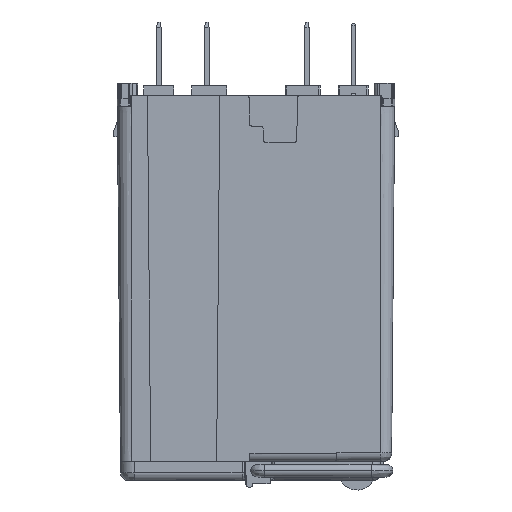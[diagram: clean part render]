
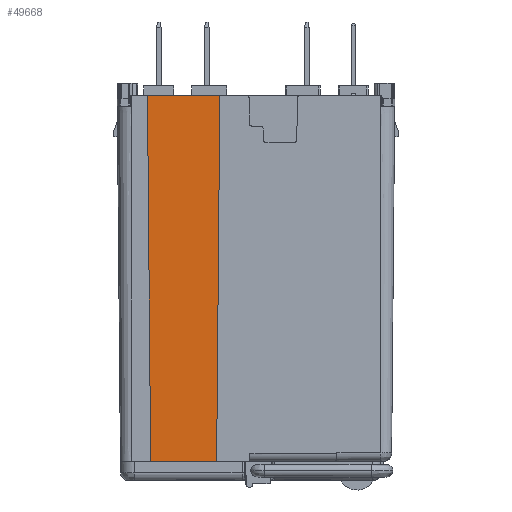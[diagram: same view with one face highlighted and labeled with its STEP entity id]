
A CAD part, left-side view. The second image highlights one B-rep face of the part: STEP entity #49668.
In plain terms, the highlighted planar face has unit normal (-1, 0, -0.009).
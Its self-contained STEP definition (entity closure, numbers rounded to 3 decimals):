
#1879 = EDGE_CURVE ( 'NONE', #8291, #4381, #81177, .T. ) ;
#2177 = CARTESIAN_POINT ( 'NONE',  ( -10.736, 6.965, -62.82 ) ) ;
#2918 = VECTOR ( 'NONE', #9836, 1000. ) ;
#4381 = VERTEX_POINT ( 'NONE', #46179 ) ;
#4986 = DIRECTION ( 'NONE',  ( 0., 1., 0. ) ) ;
#6418 = CARTESIAN_POINT ( 'NONE',  ( -11.301, 6.4, 1.88 ) ) ;
#8291 = VERTEX_POINT ( 'NONE', #27964 ) ;
#8824 = VERTEX_POINT ( 'NONE', #6418 ) ;
#8881 = VECTOR ( 'NONE', #56449, 1000. ) ;
#9638 = DIRECTION ( 'NONE',  ( 0.009, 0., -1. ) ) ;
#9836 = DIRECTION ( 'NONE',  ( 0.009, 0.009, -1. ) ) ;
#10235 = VERTEX_POINT ( 'NONE', #17257 ) ;
#16619 = DIRECTION ( 'NONE',  ( 0.009, 0., -1. ) ) ;
#17257 = CARTESIAN_POINT ( 'NONE',  ( -11.301, 19.2, 1.88 ) ) ;
#17379 = CARTESIAN_POINT ( 'NONE',  ( -10.736, 14.942, -62.82 ) ) ;
#20132 = VECTOR ( 'NONE', #16619, 1000. ) ;
#22685 = CARTESIAN_POINT ( 'NONE',  ( -10.736, 6.965, -62.818 ) ) ;
#22825 = VECTOR ( 'NONE', #48912, 1000. ) ;
#24729 = ORIENTED_EDGE ( 'NONE', *, *, #92521, .F. ) ;
#27964 = CARTESIAN_POINT ( 'NONE',  ( -10.736, 14.942, -62.818 ) ) ;
#28508 = ORIENTED_EDGE ( 'NONE', *, *, #92104, .F. ) ;
#29358 = ORIENTED_EDGE ( 'NONE', *, *, #50242, .F. ) ;
#30603 = CARTESIAN_POINT ( 'NONE',  ( -11.301, 22.05, 1.88 ) ) ;
#31688 = PLANE ( 'NONE',  #94202 ) ;
#32894 = VECTOR ( 'NONE', #53465, 1000. ) ;
#36955 = VERTEX_POINT ( 'NONE', #22685 ) ;
#42395 = LINE ( 'NONE', #63405, #22825 ) ;
#46179 = CARTESIAN_POINT ( 'NONE',  ( -10.736, 14.942, -62.82 ) ) ;
#48772 = ORIENTED_EDGE ( 'NONE', *, *, #1879, .F. ) ;
#48912 = DIRECTION ( 'NONE',  ( -0.009, 0.009, 1. ) ) ;
#49037 = CARTESIAN_POINT ( 'NONE',  ( -10.736, 6.965, -62.818 ) ) ;
#49668 = ADVANCED_FACE ( 'NONE', ( #55054 ), #31688, .F. ) ;
#50242 = EDGE_CURVE ( 'NONE', #8824, #36955, #59565, .T. ) ;
#50557 = LINE ( 'NONE', #49037, #8881 ) ;
#52480 = LINE ( 'NONE', #30603, #32894 ) ;
#53344 = CARTESIAN_POINT ( 'NONE',  ( -10.736, 18.635, -62.82 ) ) ;
#53465 = DIRECTION ( 'NONE',  ( 0., 1., 0. ) ) ;
#53930 = DIRECTION ( 'NONE',  ( 1., 0., 0.009 ) ) ;
#55054 = FACE_OUTER_BOUND ( 'NONE', #85117, .T. ) ;
#55847 = LINE ( 'NONE', #64079, #92629 ) ;
#56449 = DIRECTION ( 'NONE',  ( 0., 1., 0. ) ) ;
#57049 = ORIENTED_EDGE ( 'NONE', *, *, #68712, .T. ) ;
#57181 = EDGE_CURVE ( 'NONE', #4381, #69218, #55847, .T. ) ;
#59565 = LINE ( 'NONE', #83410, #2918 ) ;
#63405 = CARTESIAN_POINT ( 'NONE',  ( -10.736, 18.635, -62.82 ) ) ;
#64079 = CARTESIAN_POINT ( 'NONE',  ( -10.736, 6.965, -62.82 ) ) ;
#68712 = EDGE_CURVE ( 'NONE', #8824, #10235, #52480, .T. ) ;
#69218 = VERTEX_POINT ( 'NONE', #53344 ) ;
#78372 = ORIENTED_EDGE ( 'NONE', *, *, #57181, .F. ) ;
#81177 = LINE ( 'NONE', #17379, #20132 ) ;
#83410 = CARTESIAN_POINT ( 'NONE',  ( -11.301, 6.4, 1.88 ) ) ;
#85117 = EDGE_LOOP ( 'NONE', ( #57049, #24729, #78372, #48772, #28508, #29358 ) ) ;
#92104 = EDGE_CURVE ( 'NONE', #36955, #8291, #50557, .T. ) ;
#92521 = EDGE_CURVE ( 'NONE', #69218, #10235, #42395, .T. ) ;
#92629 = VECTOR ( 'NONE', #4986, 1000. ) ;
#94202 = AXIS2_PLACEMENT_3D ( 'NONE', #2177, #53930, #9638 ) ;
